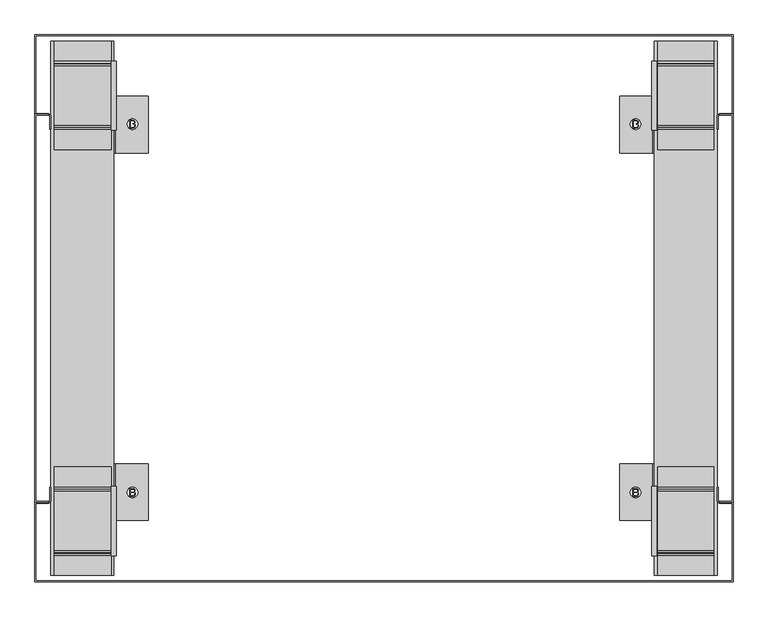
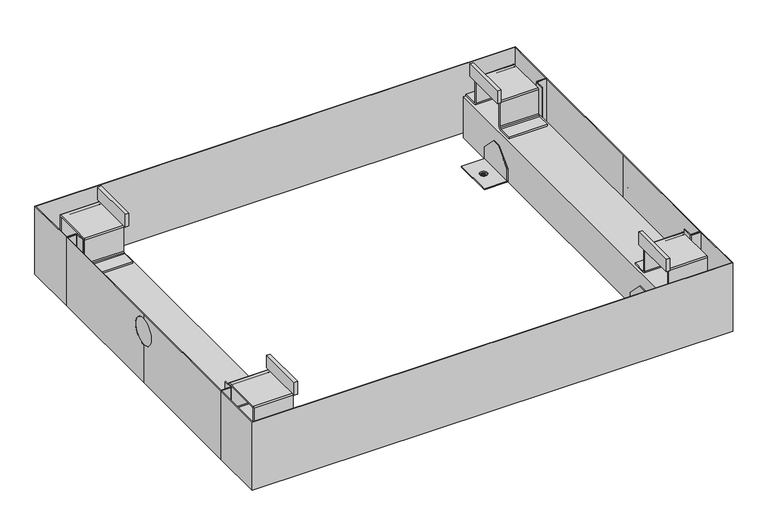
"""IFC4 building model written with IfcOpenShell, lengths in millimetres: proxy geometry, 11782990_EU_APWM024_IG : 59510024_EU_11782990_APWM024_IG."""

from ifc_helpers import new_model, si_unit, point, frame, frame_2d, origin, origin_with_axes, place, context, project, spatial, polyline, circle_curve, trimmed, segment, composite_curve, outline, extrude, source, transform, mapped, element, save
from ifc_brep_helpers import plane_surface, revolved_surface, advanced_brep


def specialty_equipment_4e6afd6e(model_context):
    return source(origin(), model_context, "Body", "SolidModel", [
        advanced_brep(
        [(-555.0, -126.5, 171.8001281), (-555.0, -435.0, 171.8001281), (-555.0, -743.5, 171.8001281), (-533.1000023, -743.5, 171.8001281), (-533.1000023, -742.0, 171.8001281), (-553.5, -742.0, 171.8001281), (-553.5, -435.0, 171.8001281), (-553.5, -128.0, 171.8001281), (-533.1000023, -128.0, 171.8001281), (-533.1000023, -126.5, 171.8001281), (-555.0, -126.5, 5.0069558), (-533.1000023, -126.5, 5.0069558), (-533.1000023, -128.0, 5.0069558), (-553.5, -128.0, 5.0069558), (-553.5, -435.0, 5.0069558), (-553.5, -742.0, 5.0069558), (-533.1000023, -742.0, 5.0069558), (-533.1000023, -743.5, 5.0069558), (-555.0, -743.5, 5.0069558), (-555.0, -435.0, 5.0069558), (-555.0, -435.0, 97.7016111), (-555.0, -402.9849473, 129.7166638), (-555.0, -435.0, 161.7317164), (-555.0, -467.0150527, 129.7166638), (-553.9619558, -467.0150527, 129.7166638), (-553.9619558, -402.9849473, 129.7166638)],
        [
            (0, 1),
            (1, 2),
            (2, 3),
            (3, 4),
            (4, 5),
            (5, 6),
            (6, 7),
            (7, 8),
            (8, 9),
            (9, 0),
            (10, 11),
            (11, 12),
            (12, 13),
            (13, 14),
            (14, 15),
            (15, 16),
            (16, 17),
            (17, 18),
            (18, 19),
            (19, 10),
            (0, 10),
            (19, 20),
            (20, 21, circle_curve(frame((-555.0, -435.0, 129.7166638), z_axis=(1.0, 0.0, 0.0), x_axis=(0.0, 1.0, 0.0)), 32.0150527)),
            (21, 22, circle_curve(frame((-555.0, -435.0, 129.7166638), z_axis=(1.0, 0.0, 0.0), x_axis=(0.0, 1.0, 0.0)), 32.0150527)),
            (22, 1),
            (22, 23, circle_curve(frame((-555.0, -435.0, 129.7166638), z_axis=(1.0, 0.0, 0.0), x_axis=(0.0, 1.0, 0.0)), 32.0150527)),
            (23, 20, circle_curve(frame((-555.0, -435.0, 129.7166638), z_axis=(1.0, 0.0, 0.0), x_axis=(0.0, 1.0, 0.0)), 32.0150527)),
            (18, 2),
            (17, 3),
            (16, 4),
            (15, 5),
            (14, 6),
            (13, 7),
            (12, 8),
            (11, 9),
            (24, 25, circle_curve(frame((-553.9619558, -435.0, 129.7166638), z_axis=(-1.0, 0.0, 0.0), x_axis=(0.0, 1.0, 0.0)), 32.0150527)),
            (25, 24, circle_curve(frame((-553.9619558, -435.0, 129.7166638), z_axis=(-1.0, 0.0, 0.0), x_axis=(0.0, 1.0, 0.0)), 32.0150527)),
            (25, 21),
            (23, 24),
        ],
        [
            plane_surface(frame((-555.0, -126.5, 171.8001281), z_axis=(0.0, 0.0, 1.0), x_axis=(0.0, -1.0, 0.0))),
            plane_surface(frame((-555.0, -126.5, 5.0069558), z_axis=(0.0, 0.0, -1.0), x_axis=(0.0, 1.0, 0.0))),
            plane_surface(frame((-555.0, -126.5, 171.8001281), z_axis=(-1.0, 0.0, 0.0), x_axis=(0.0, 0.0, -1.0))),
            plane_surface(frame((-555.0, -435.0, 171.8001281), z_axis=(-1.0, 0.0, 0.0), x_axis=(0.0, 0.0, -1.0))),
            plane_surface(frame((-555.0, -743.5, 171.8001281), z_axis=(0.0, -1.0, 0.0), x_axis=(0.0, 0.0, -1.0))),
            plane_surface(frame((-533.1000023, -743.5, 171.8001281), z_axis=(1.0, 0.0, 0.0), x_axis=(0.0, 0.0, -1.0))),
            plane_surface(frame((-533.1000023, -742.0, 171.8001281), z_axis=(0.0, 1.0, 0.0), x_axis=(0.0, 0.0, -1.0))),
            plane_surface(frame((-553.5, -742.0, 171.8001281), z_axis=(1.0, 0.0, 0.0), x_axis=(0.0, 0.0, -1.0))),
            plane_surface(frame((-553.5, -435.0, 171.8001281), z_axis=(1.0, 0.0, 0.0), x_axis=(0.0, 0.0, -1.0))),
            plane_surface(frame((-553.5, -128.0, 171.8001281), z_axis=(0.0, -1.0, 0.0), x_axis=(0.0, 0.0, -1.0))),
            plane_surface(frame((-533.1000023, -128.0, 171.8001281), z_axis=(1.0, 0.0, 0.0), x_axis=(0.0, 0.0, -1.0))),
            plane_surface(frame((-533.1000023, -126.5, 171.8001281), z_axis=(0.0, 1.0, 0.0), x_axis=(0.0, 0.0, -1.0))),
            plane_surface(frame((-553.9619558, -402.9849473, 129.7166638), z_axis=(-1.0, 0.0, 0.0), x_axis=(0.0, 0.0, 1.0))),
            revolved_surface(polyline([(-555.0, -402.9849473, 129.7166638), (-553.9619558, -402.9849473, 129.7166638)]), (-553.9619558, -435.0, 129.7166638), (-1.0, 0.0, 0.0)),
        ],
        [
            (0, [[1, 2, 3, 4, 5, 6, 7, 8, 9, 10]]),
            (1, [[11, 12, 13, 14, 15, 16, 17, 18, 19, 20]]),
            (2, [[-1, 21, -20, 22, 23, 24, 25]]),
            (3, [[-2, -25, 26, 27, -22, -19, 28]]),
            (4, [[-3, -28, -18, 29]]),
            (5, [[-4, -29, -17, 30]]),
            (6, [[-5, -30, -16, 31]]),
            (7, [[-6, -31, -15, 32]]),
            (8, [[-7, -32, -14, 33]]),
            (9, [[-8, -33, -13, 34]]),
            (10, [[-9, -34, -12, 35]]),
            (11, [[-10, -35, -11, -21]]),
            (12, [[36, 37]]),
            (13, [[-37, 38, -23, -27, 39]]),
            (13, [[-36, -39, -26, -24, -38]]),
        ],
    ),
        advanced_brep(
        [(555.0, -126.5, 171.8001281), (533.1000023, -126.5, 171.8001281), (533.1000023, -128.0, 171.8001281), (553.5, -128.0, 171.8001281), (553.5, -435.0, 171.8001281), (553.5, -742.0, 171.8001281), (533.1000023, -742.0, 171.8001281), (533.1000023, -743.5, 171.8001281), (555.0, -743.5, 171.8001281), (555.0, -435.0, 171.8001281), (555.0, -126.5, 5.0069558), (555.0, -435.0, 5.0069558), (555.0, -743.5, 5.0069558), (533.1000023, -743.5, 5.0069558), (533.1000023, -742.0, 5.0069558), (553.5, -742.0, 5.0069558), (553.5, -435.0, 5.0069558), (553.5, -128.0, 5.0069558), (533.1000023, -128.0, 5.0069558), (533.1000023, -126.5, 5.0069558), (555.0, -435.0, 161.7317164), (555.0, -402.9849473, 129.7166638), (555.0, -435.0, 97.7016111), (555.0, -467.0150527, 129.7166638), (553.9619558, -467.0150527, 129.7166638), (553.9619558, -402.9849473, 129.7166638)],
        [
            (0, 1),
            (1, 2),
            (2, 3),
            (3, 4),
            (4, 5),
            (5, 6),
            (6, 7),
            (7, 8),
            (8, 9),
            (9, 0),
            (10, 11),
            (11, 12),
            (12, 13),
            (13, 14),
            (14, 15),
            (15, 16),
            (16, 17),
            (17, 18),
            (18, 19),
            (19, 10),
            (9, 20),
            (20, 21, circle_curve(frame((555.0, -435.0, 129.7166638), z_axis=(-1.0, 0.0, 0.0), x_axis=(0.0, 1.0, 0.0)), 32.0150527)),
            (21, 22, circle_curve(frame((555.0, -435.0, 129.7166638), z_axis=(-1.0, 0.0, 0.0), x_axis=(0.0, 1.0, 0.0)), 32.0150527)),
            (22, 11),
            (10, 0),
            (8, 12),
            (22, 23, circle_curve(frame((555.0, -435.0, 129.7166638), z_axis=(-1.0, 0.0, 0.0), x_axis=(0.0, 1.0, 0.0)), 32.0150527)),
            (23, 20, circle_curve(frame((555.0, -435.0, 129.7166638), z_axis=(-1.0, 0.0, 0.0), x_axis=(0.0, 1.0, 0.0)), 32.0150527)),
            (7, 13),
            (6, 14),
            (5, 15),
            (4, 16),
            (3, 17),
            (2, 18),
            (1, 19),
            (24, 25, circle_curve(frame((553.9619558, -435.0, 129.7166638), z_axis=(1.0, 0.0, 0.0), x_axis=(0.0, 1.0, 0.0)), 32.0150527)),
            (25, 24, circle_curve(frame((553.9619558, -435.0, 129.7166638), z_axis=(1.0, 0.0, 0.0), x_axis=(0.0, 1.0, 0.0)), 32.0150527)),
            (24, 23),
            (21, 25),
        ],
        [
            plane_surface(frame((533.1000023, -126.5, 171.8001281), z_axis=(0.0, 0.0, 1.0), x_axis=(-1.0, 0.0, 0.0))),
            plane_surface(frame((533.1000023, -126.5, 5.0069558), z_axis=(0.0, 0.0, -1.0), x_axis=(1.0, 0.0, 0.0))),
            plane_surface(frame((555.0, -435.0, 171.8001281), z_axis=(1.0, 0.0, 0.0), x_axis=(0.0, 0.0, -1.0))),
            plane_surface(frame((555.0, -743.5, 171.8001281), z_axis=(1.0, 0.0, 0.0), x_axis=(0.0, 0.0, -1.0))),
            plane_surface(frame((533.1000023, -743.5, 171.8001281), z_axis=(0.0, -1.0, 0.0), x_axis=(0.0, 0.0, -1.0))),
            plane_surface(frame((533.1000023, -742.0, 171.8001281), z_axis=(-1.0, 0.0, 0.0), x_axis=(0.0, 0.0, -1.0))),
            plane_surface(frame((553.5, -742.0, 171.8001281), z_axis=(0.0, 1.0, 0.0), x_axis=(0.0, 0.0, -1.0))),
            plane_surface(frame((553.5, -435.0, 171.8001281), z_axis=(-1.0, 0.0, 0.0), x_axis=(0.0, 0.0, -1.0))),
            plane_surface(frame((553.5, -128.0, 171.8001281), z_axis=(-1.0, 0.0, 0.0), x_axis=(0.0, 0.0, -1.0))),
            plane_surface(frame((533.1000023, -128.0, 171.8001281), z_axis=(0.0, -1.0, 0.0), x_axis=(0.0, 0.0, -1.0))),
            plane_surface(frame((533.1000023, -126.5, 171.8001281), z_axis=(-1.0, 0.0, 0.0), x_axis=(0.0, 0.0, -1.0))),
            plane_surface(frame((555.0, -126.5, 171.8001281), z_axis=(0.0, 1.0, 0.0), x_axis=(0.0, 0.0, -1.0))),
            plane_surface(frame((553.9619558, -402.9849473, 129.7166638), z_axis=(1.0, 0.0, 0.0), x_axis=(0.0, 0.0, -1.0))),
            revolved_surface(polyline([(555.0, -402.9849473, 129.7166638), (553.9619558, -402.9849473, 129.7166638)]), (553.9619558, -435.0, 129.7166638), (1.0, 0.0, 0.0)),
        ],
        [
            (0, [[1, 2, 3, 4, 5, 6, 7, 8, 9, 10]]),
            (1, [[11, 12, 13, 14, 15, 16, 17, 18, 19, 20]]),
            (2, [[-10, 21, 22, 23, 24, -11, 25]]),
            (3, [[-9, 26, -12, -24, 27, 28, -21]]),
            (4, [[-8, 29, -13, -26]]),
            (5, [[-7, 30, -14, -29]]),
            (6, [[-6, 31, -15, -30]]),
            (7, [[-5, 32, -16, -31]]),
            (8, [[-4, 33, -17, -32]]),
            (9, [[-3, 34, -18, -33]]),
            (10, [[-2, 35, -19, -34]]),
            (11, [[-1, -25, -20, -35]]),
            (12, [[36, 37]]),
            (13, [[-36, 38, -27, -23, 39]]),
            (13, [[-37, -39, -22, -28, -38]]),
        ],
    ),
        extrude(outline(polyline([(395.7619994, -734.0547572), (395.7619994, -722.0), (400.3619959, -722.0), (402.6149052, -722.3546382), (403.9451665, -723.4450405), (404.4263562, -724.9872018), (404.021686, -726.3954541), (402.7988462, -727.4623119), (404.283618, -728.5865592), (404.8030673, -730.4612859), (404.4484291, -732.0814382), (403.5699269, -733.2351161), (402.2587955, -733.8472718), (400.3266792, -734.0547572), (395.7619994, -734.0547572)]), holes=[polyline([(397.2688441, -726.8972451), (400.0206014, -726.8972451), (401.6275099, -726.7677507), (402.5943038, -726.2100416), (402.9195115, -725.2285324), (402.6163767, -724.2455517), (401.7481752, -723.6642981), (399.8116444, -723.5068447), (397.2688441, -723.5068447), (397.2688441, -726.8972451)]), polyline([(397.2688441, -732.5479126), (400.3590528, -732.5479126), (401.4774141, -732.4890514), (402.4236066, -732.1609007), (403.0504775, -731.4913555), (403.2962227, -730.4760012), (403.0078032, -729.3046649), (402.0733829, -728.6056891), (400.2119, -728.4040898), (397.2688441, -728.4040898), (397.2688441, -732.5479126)])]), frame((0.0, 0.0, -1.0), z_axis=(0.0, 0.0, 1.0), x_axis=(1.0, 0.0, 0.0)), (0.0, 0.0, 1.0), 1.0),
        extrude(outline(polyline([(395.7619994, -148.0), (395.7619994, -135.9452428), (400.3619959, -135.9452428), (402.6149052, -136.299881), (403.9451665, -137.3902833), (404.4263562, -138.9324446), (404.021686, -140.3406969), (402.7988462, -141.4075546), (404.283618, -142.531802), (404.8030673, -144.4065287), (404.4484291, -146.026681), (403.5699269, -147.1803589), (402.2587955, -147.7925146), (400.3266792, -148.0), (395.7619994, -148.0)]), holes=[polyline([(397.2688441, -140.8424879), (400.0206014, -140.8424879), (401.6275099, -140.7129934), (402.5943038, -140.1552843), (402.9195115, -139.1737752), (402.6163767, -138.1907945), (401.7481752, -137.6095409), (399.8116444, -137.4520874), (397.2688441, -137.4520874), (397.2688441, -140.8424879)]), polyline([(397.2688441, -146.4931553), (400.3590528, -146.4931553), (401.4774141, -146.4342942), (402.4236066, -146.1061435), (403.0504775, -145.4365983), (403.2962227, -144.421244), (403.0078032, -143.2499077), (402.0733829, -142.5509319), (400.2119, -142.3493326), (397.2688441, -142.3493326), (397.2688441, -146.4931553)])]), frame((0.0, 0.0, -1.0), z_axis=(0.0, 0.0, 1.0), x_axis=(1.0, 0.0, 0.0)), (0.0, 0.0, 1.0), 1.0),
        extrude(outline(polyline([(-404.2380006, -734.0547572), (-404.2380006, -722.0), (-399.6380041, -722.0), (-397.3850948, -722.3546382), (-396.0548335, -723.4450405), (-395.5736438, -724.9872018), (-395.978314, -726.3954541), (-397.2011538, -727.4623119), (-395.716382, -728.5865592), (-395.1969327, -730.4612859), (-395.5515709, -732.0814382), (-396.4300731, -733.2351161), (-397.7412045, -733.8472718), (-399.6733208, -734.0547572), (-404.2380006, -734.0547572)]), holes=[polyline([(-402.7311559, -726.8972451), (-399.9793986, -726.8972451), (-398.3724901, -726.7677507), (-397.4056962, -726.2100416), (-397.0804885, -725.2285324), (-397.3836233, -724.2455517), (-398.2518248, -723.6642981), (-400.1883556, -723.5068447), (-402.7311559, -723.5068447), (-402.7311559, -726.8972451)]), polyline([(-402.7311559, -732.5479126), (-399.6409472, -732.5479126), (-398.5225859, -732.4890514), (-397.5763934, -732.1609007), (-396.9495225, -731.4913555), (-396.7037773, -730.4760012), (-396.9921968, -729.3046649), (-397.9266171, -728.6056891), (-399.7881, -728.4040898), (-402.7311559, -728.4040898), (-402.7311559, -732.5479126)])]), frame((0.0, 0.0, -1.0), z_axis=(0.0, 0.0, 1.0), x_axis=(1.0, 0.0, 0.0)), (0.0, 0.0, 1.0), 1.0),
        extrude(outline(polyline([(-404.2380006, -148.0), (-404.2380006, -135.9452428), (-399.6380041, -135.9452428), (-397.3850948, -136.299881), (-396.0548335, -137.3902833), (-395.5736438, -138.9324446), (-395.978314, -140.3406969), (-397.2011538, -141.4075546), (-395.716382, -142.531802), (-395.1969327, -144.4065287), (-395.5515709, -146.026681), (-396.4300731, -147.1803589), (-397.7412045, -147.7925146), (-399.6733208, -148.0), (-404.2380006, -148.0)]), holes=[polyline([(-402.7311559, -140.8424879), (-399.9793986, -140.8424879), (-398.3724901, -140.7129934), (-397.4056962, -140.1552843), (-397.0804885, -139.1737752), (-397.3836233, -138.1907945), (-398.2518248, -137.6095409), (-400.1883556, -137.4520874), (-402.7311559, -137.4520874), (-402.7311559, -140.8424879)]), polyline([(-402.7311559, -146.4931553), (-399.6409472, -146.4931553), (-398.5225859, -146.4342942), (-397.5763934, -146.1061435), (-396.9495225, -145.4365983), (-396.7037773, -144.421244), (-396.9921968, -143.2499077), (-397.9266171, -142.5509319), (-399.7881, -142.3493326), (-402.7311559, -142.3493326), (-402.7311559, -146.4931553)])]), frame((0.0, 0.0, -1.0), z_axis=(0.0, 0.0, 1.0), x_axis=(1.0, 0.0, 0.0)), (0.0, 0.0, 1.0), 1.0),
        extrude(outline(polyline([(430.0478439, -682.1946793), (430.0478439, -772.5500183), (375.0, -772.5500183), (375.0, -682.1946793), (430.0478439, -682.1946793)]), holes=[composite_curve([segment(trimmed(circle_curve(frame_2d((400.0, -728.0)), 8.4700909), [point((391.5299091, -728.0))], [point((408.4700909, -728.0))], True, "CARTESIAN"), True, "CONTINUOUS"), segment(trimmed(circle_curve(frame_2d((400.0, -728.0)), 8.4700909), [point((408.4700909, -728.0))], [point((391.5299091, -728.0))], True, "CARTESIAN"), True, "CONTINUOUS")], self_intersect=False)]), origin_with_axes(), (0.0, 0.0, 1.0), 2.452137),
        extrude(outline(polyline([(430.0478439, -187.8053207), (375.0, -187.8053207), (375.0, -97.4499817), (430.0478439, -97.4499817), (430.0478439, -187.8053207)]), holes=[composite_curve([segment(trimmed(circle_curve(frame_2d((400.0, -142.0)), 8.4700909), [point((408.4700909, -142.0))], [point((391.5299091, -142.0))], True, "CARTESIAN"), True, "CONTINUOUS"), segment(trimmed(circle_curve(frame_2d((400.0, -142.0)), 8.4700909), [point((391.5299091, -142.0))], [point((408.4700909, -142.0))], True, "CARTESIAN"), True, "CONTINUOUS")], self_intersect=False)]), origin_with_axes(), (0.0, 0.0, 1.0), 2.452137),
        extrude(outline(polyline([(434.0, -151.5), (426.0478439, -151.5), (426.0478439, -41.5), (434.0, -41.5), (434.0, -151.5)])), frame((0.0, 0.0, 169.8569783), z_axis=(0.0, 0.0, 1.0), x_axis=(1.0, 0.0, 0.0)), (0.0, 0.0, 1.0), 31.1430217),
        extrude(outline(polyline([(426.0478439, -718.5), (434.0, -718.5), (434.0, -828.5), (426.0478439, -828.5), (426.0478439, -718.5)])), frame((0.0, 0.0, 169.8569783), z_axis=(0.0, 0.0, 1.0), x_axis=(1.0, 0.0, 0.0)), (0.0, 0.0, 1.0), 31.1430217),
        extrude(outline(polyline([(-434.0, -718.5), (-426.0478439, -718.5), (-426.0478439, -828.5), (-434.0, -828.5), (-434.0, -718.5)])), frame((0.0, 0.0, 169.8569783), z_axis=(0.0, 0.0, 1.0), x_axis=(1.0, 0.0, 0.0)), (0.0, 0.0, 1.0), 31.1430217),
        extrude(outline(polyline([(-426.0478439, -151.5), (-434.0, -151.5), (-434.0, -41.5), (-426.0478439, -41.5), (-426.0478439, -151.5)])), frame((0.0, 0.0, 169.8569783), z_axis=(0.0, 0.0, 1.0), x_axis=(1.0, 0.0, 0.0)), (0.0, 0.0, 1.0), 31.1430217),
        extrude(outline(composite_curve([segment(polyline([(-827.5, 100.0), (-860.0, 100.0), (-860.0, 104.0), (-828.2053079, 104.0), (-824.5823269, 105.3186573), (-823.1075028, 108.4814277), (-823.1075028, 166.8569783)]), True, "CONTINUOUS"), segment(trimmed(circle_curve(frame_2d((-820.1075028, 166.8569783)), 3.0), [point((-823.1075028, 166.8569783))], [point((-820.1075028, 169.8569783))], False, "CARTESIAN"), True, "CONTINUOUS"), segment(polyline([(-820.1075028, 169.8569783), (-726.3723488, 169.8569783)]), True, "CONTINUOUS"), segment(trimmed(circle_curve(frame_2d((-726.3723488, 166.8569783)), 3.0), [point((-726.3723488, 169.8569783))], [point((-723.3723488, 166.8569783))], False, "CARTESIAN"), True, "CONTINUOUS"), segment(polyline([(-723.3723488, 166.8569783), (-723.3723488, 108.3971605), (-722.2811907, 105.3992283), (-719.2805359, 104.0), (-687.6000061, 104.0), (-687.6000061, 100.0), (-720.1673145, 100.0), (-725.4732837, 102.4742141), (-727.3723488, 107.6918526), (-727.3723488, 162.8569783)]), True, "CONTINUOUS"), segment(trimmed(circle_curve(frame_2d((-730.3723488, 162.8569783)), 3.0), [point((-727.3723488, 162.8569783))], [point((-730.3723488, 165.8569783))], True, "CARTESIAN"), True, "CONTINUOUS"), segment(polyline([(-730.3723488, 165.8569783), (-816.1075028, 165.8569783)]), True, "CONTINUOUS"), segment(trimmed(circle_curve(frame_2d((-816.1075028, 162.8569783)), 3.0), [point((-816.1075028, 165.8569783))], [point((-819.1075028, 162.8569783))], True, "CARTESIAN"), True, "CONTINUOUS"), segment(polyline([(-819.1075028, 162.8569783), (-819.1075028, 107.594649), (-821.6573126, 102.1265643), (-827.5, 100.0)]), True, "CONTINUOUS")], self_intersect=False)), frame((435.0, 0.0, 0.0), z_axis=(1.0, 0.0, 0.0), x_axis=(0.0, 1.0, 0.0)), (0.0, 0.0, 1.0), 89.0),
        extrude(outline(composite_curve([segment(polyline([(-42.5, 100.0), (-48.3426874, 102.1265643), (-50.8924972, 107.594649), (-50.8924972, 162.8569783)]), True, "CONTINUOUS"), segment(trimmed(circle_curve(frame_2d((-53.8924972, 162.8569783)), 3.0), [point((-50.8924972, 162.8569783))], [point((-53.8924972, 165.8569783))], True, "CARTESIAN"), True, "CONTINUOUS"), segment(polyline([(-53.8924972, 165.8569783), (-139.6276512, 165.8569783)]), True, "CONTINUOUS"), segment(trimmed(circle_curve(frame_2d((-139.6276512, 162.8569783)), 3.0), [point((-139.6276512, 165.8569783))], [point((-142.6276512, 162.8569783))], True, "CARTESIAN"), True, "CONTINUOUS"), segment(polyline([(-142.6276512, 162.8569783), (-142.6276512, 107.6918526), (-144.5267163, 102.4742141), (-149.8326855, 100.0), (-182.3999939, 100.0), (-182.3999939, 104.0), (-150.7194641, 104.0), (-147.7188093, 105.3992283), (-146.6276512, 108.3971605), (-146.6276512, 166.8569783)]), True, "CONTINUOUS"), segment(trimmed(circle_curve(frame_2d((-143.6276512, 166.8569783)), 3.0), [point((-146.6276512, 166.8569783))], [point((-143.6276512, 169.8569783))], False, "CARTESIAN"), True, "CONTINUOUS"), segment(polyline([(-143.6276512, 169.8569783), (-49.8924972, 169.8569783)]), True, "CONTINUOUS"), segment(trimmed(circle_curve(frame_2d((-49.8924972, 166.8569783)), 3.0), [point((-49.8924972, 169.8569783))], [point((-46.8924972, 166.8569783))], False, "CARTESIAN"), True, "CONTINUOUS"), segment(polyline([(-46.8924972, 166.8569783), (-46.8924972, 108.4814277), (-45.4176731, 105.3186573), (-41.7946921, 104.0), (-10.0, 104.0), (-10.0, 100.0), (-42.5, 100.0)]), True, "CONTINUOUS")], self_intersect=False)), frame((435.0, 0.0, 0.0), z_axis=(1.0, 0.0, 0.0), x_axis=(0.0, 1.0, 0.0)), (0.0, 0.0, 1.0), 89.0),
        extrude(outline(composite_curve([segment(polyline([(-42.5, 100.0), (-48.3426874, 102.1265643), (-50.8924972, 107.594649), (-50.8924972, 162.8569783)]), True, "CONTINUOUS"), segment(trimmed(circle_curve(frame_2d((-53.8924972, 162.8569783)), 3.0), [point((-50.8924972, 162.8569783))], [point((-53.8924972, 165.8569783))], True, "CARTESIAN"), True, "CONTINUOUS"), segment(polyline([(-53.8924972, 165.8569783), (-139.6276512, 165.8569783)]), True, "CONTINUOUS"), segment(trimmed(circle_curve(frame_2d((-139.6276512, 162.8569783)), 3.0), [point((-139.6276512, 165.8569783))], [point((-142.6276512, 162.8569783))], True, "CARTESIAN"), True, "CONTINUOUS"), segment(polyline([(-142.6276512, 162.8569783), (-142.6276512, 107.6918526), (-144.5267163, 102.4742141), (-149.8326855, 100.0), (-182.3999939, 100.0), (-182.3999939, 104.0), (-150.7194641, 104.0), (-147.7188093, 105.3992283), (-146.6276512, 108.3971605), (-146.6276512, 166.8569783)]), True, "CONTINUOUS"), segment(trimmed(circle_curve(frame_2d((-143.6276512, 166.8569783)), 3.0), [point((-146.6276512, 166.8569783))], [point((-143.6276512, 169.8569783))], False, "CARTESIAN"), True, "CONTINUOUS"), segment(polyline([(-143.6276512, 169.8569783), (-49.8924972, 169.8569783)]), True, "CONTINUOUS"), segment(trimmed(circle_curve(frame_2d((-49.8924972, 166.8569783)), 3.0), [point((-49.8924972, 169.8569783))], [point((-46.8924972, 166.8569783))], False, "CARTESIAN"), True, "CONTINUOUS"), segment(polyline([(-46.8924972, 166.8569783), (-46.8924972, 108.4814277), (-45.4176731, 105.3186573), (-41.7946921, 104.0), (-10.0, 104.0), (-10.0, 100.0), (-42.5, 100.0)]), True, "CONTINUOUS")], self_intersect=False)), frame((-524.0478439, 0.0, 0.0), z_axis=(1.0, 0.0, 0.0), x_axis=(0.0, 1.0, 0.0)), (0.0, 0.0, 1.0), 90.0478439),
        extrude(outline(composite_curve([segment(polyline([(-827.5, 100.0), (-860.0, 100.0), (-860.0, 104.0), (-828.2053079, 104.0), (-824.5823269, 105.3186573), (-823.1075028, 108.4814277), (-823.1075028, 166.8569783)]), True, "CONTINUOUS"), segment(trimmed(circle_curve(frame_2d((-820.1075028, 166.8569783)), 3.0), [point((-823.1075028, 166.8569783))], [point((-820.1075028, 169.8569783))], False, "CARTESIAN"), True, "CONTINUOUS"), segment(polyline([(-820.1075028, 169.8569783), (-726.3723488, 169.8569783)]), True, "CONTINUOUS"), segment(trimmed(circle_curve(frame_2d((-726.3723488, 166.8569783)), 3.0), [point((-726.3723488, 169.8569783))], [point((-723.3723488, 166.8569783))], False, "CARTESIAN"), True, "CONTINUOUS"), segment(polyline([(-723.3723488, 166.8569783), (-723.3723488, 108.3971605), (-722.2811907, 105.3992283), (-719.2805359, 104.0), (-687.6000061, 104.0), (-687.6000061, 100.0), (-720.1673145, 100.0), (-725.4732837, 102.4742141), (-727.3723488, 107.6918526), (-727.3723488, 162.8569783)]), True, "CONTINUOUS"), segment(trimmed(circle_curve(frame_2d((-730.3723488, 162.8569783)), 3.0), [point((-727.3723488, 162.8569783))], [point((-730.3723488, 165.8569783))], True, "CARTESIAN"), True, "CONTINUOUS"), segment(polyline([(-730.3723488, 165.8569783), (-816.1075028, 165.8569783)]), True, "CONTINUOUS"), segment(trimmed(circle_curve(frame_2d((-816.1075028, 162.8569783)), 3.0), [point((-816.1075028, 165.8569783))], [point((-819.1075028, 162.8569783))], True, "CARTESIAN"), True, "CONTINUOUS"), segment(polyline([(-819.1075028, 162.8569783), (-819.1075028, 107.594649), (-821.6573126, 102.1265643), (-827.5, 100.0)]), True, "CONTINUOUS")], self_intersect=False)), frame((-524.0478439, 0.0, 0.0), z_axis=(1.0, 0.0, 0.0), x_axis=(0.0, 1.0, 0.0)), (0.0, 0.0, 1.0), 90.0478439),
        extrude(outline(polyline([(-430.0478439, -187.8053207), (-430.0478439, -97.4499817), (-375.0, -97.4499817), (-375.0, -187.8053207), (-430.0478439, -187.8053207)]), holes=[composite_curve([segment(trimmed(circle_curve(frame_2d((-400.0, -142.0)), 8.4700909), [point((-391.5299091, -142.0))], [point((-408.4700909, -142.0))], True, "CARTESIAN"), True, "CONTINUOUS"), segment(trimmed(circle_curve(frame_2d((-400.0, -142.0)), 8.4700909), [point((-408.4700909, -142.0))], [point((-391.5299091, -142.0))], True, "CARTESIAN"), True, "CONTINUOUS")], self_intersect=False)]), origin_with_axes(), (0.0, 0.0, 1.0), 2.452137),
        extrude(outline(polyline([(-430.0478439, -682.1946793), (-375.0, -682.1946793), (-375.0, -772.5500183), (-430.0478439, -772.5500183), (-430.0478439, -682.1946793)]), holes=[composite_curve([segment(trimmed(circle_curve(frame_2d((-400.0, -728.0)), 8.4700909), [point((-408.4700909, -728.0))], [point((-391.5299091, -728.0))], True, "CARTESIAN"), True, "CONTINUOUS"), segment(trimmed(circle_curve(frame_2d((-400.0, -728.0)), 8.4700909), [point((-391.5299091, -728.0))], [point((-408.4700909, -728.0))], True, "CARTESIAN"), True, "CONTINUOUS")], self_intersect=False)]), origin_with_axes(), (0.0, 0.0, 1.0), 2.452137),
        extrude(outline(polyline([(-772.5500183, 31.9500008), (-737.5500183, 66.9500008), (-717.5500183, 66.9500008), (-682.1946793, 31.5946617), (-682.1946793, 0.0), (-772.5500183, 0.0), (-772.5500183, 31.9500008)])), frame((427.5478439, 0.0, 0.0), z_axis=(1.0, 0.0, 0.0), x_axis=(0.0, 1.0, 0.0)), (0.0, 0.0, 1.0), 2.5),
        extrude(outline(polyline([(-97.4499817, 31.9500008), (-97.4499817, 0.0), (-187.8053207, 0.0), (-187.8053207, 31.5946617), (-152.4499817, 66.9500008), (-132.4499817, 66.9500008), (-97.4499817, 31.9500008)])), frame((427.5478439, 0.0, 0.0), z_axis=(1.0, 0.0, 0.0), x_axis=(0.0, 1.0, 0.0)), (0.0, 0.0, 1.0), 2.5),
        extrude(outline(polyline([(-97.4499817, 31.9500008), (-97.4499817, 0.0), (-187.8053207, 0.0), (-187.8053207, 31.5946617), (-152.4499817, 66.9500008), (-132.4499817, 66.9500008), (-97.4499817, 31.9500008)])), frame((-430.0478439, 0.0, 0.0), z_axis=(1.0, 0.0, 0.0), x_axis=(0.0, 1.0, 0.0)), (0.0, 0.0, 1.0), 2.5),
        extrude(outline(polyline([(-772.5500183, 31.9500008), (-737.5500183, 66.9500008), (-717.5500183, 66.9500008), (-682.1946793, 31.5946617), (-682.1946793, 0.0), (-772.5500183, 0.0), (-772.5500183, 31.9500008)])), frame((-430.0478439, 0.0, 0.0), z_axis=(1.0, 0.0, 0.0), x_axis=(0.0, 1.0, 0.0)), (0.0, 0.0, 1.0), 2.5),
        extrude(outline(polyline([(430.0478439, -10.0), (530.0478439, -10.0), (530.0478439, -860.0), (430.0478439, -860.0), (430.0478439, -10.0)])), origin_with_axes(), (0.0, 0.0, 1.0), 100.0),
        extrude(outline(polyline([(-430.0478439, -10.0), (-430.0478439, -860.0), (-530.0478439, -860.0), (-530.0478439, -10.0), (-430.0478439, -10.0)])), origin_with_axes(), (0.0, 0.0, 1.0), 100.0),
        extrude(outline(polyline([(555.0, 0.0), (555.0, -126.5), (533.0952676, -126.5), (531.5956955, -128.0999756), (531.5956955, -150.0), (530.0956955, -150.0), (530.0956955, -128.0999756), (533.1956711, -125.0), (553.5, -125.0), (553.5, -1.5), (-553.5, -1.5), (-553.5, -125.0), (-533.1956711, -125.0), (-530.0956955, -128.0999756), (-530.0956955, -150.0), (-531.5956955, -150.0), (-531.5956955, -128.0999756), (-533.0952676, -126.5), (-555.0, -126.5), (-555.0, 0.0), (555.0, 0.0)])), frame((0.0, 0.0, 5.0069558), z_axis=(0.0, 0.0, 1.0), x_axis=(1.0, 0.0, 0.0)), (0.0, 0.0, 1.0), 166.7931723),
        extrude(outline(polyline([(555.0, -870.0), (-555.0, -870.0), (-555.0, -743.5), (-533.0952676, -743.5), (-531.5956955, -741.9000244), (-531.5956955, -720.0), (-530.0956955, -720.0), (-530.0956955, -741.9000244), (-533.1956711, -745.0), (-553.5, -745.0), (-553.5, -868.5), (553.5, -868.5), (553.5, -745.0), (533.1956711, -745.0), (530.0956955, -741.9000244), (530.0956955, -720.0), (531.5956955, -720.0), (531.5956955, -741.9000244), (533.0952676, -743.5), (555.0, -743.5), (555.0, -870.0)])), frame((0.0, 0.0, 5.0069558), z_axis=(0.0, 0.0, 1.0), x_axis=(1.0, 0.0, 0.0)), (0.0, 0.0, 1.0), 166.7931723),
    ])


if __name__ == "__main__":
    model = new_model("IFC4")
    model_context = context("Model", 3, world=origin())
    ifc_project = project(units=[si_unit("LENGTHUNIT", "METRE", prefix="MILLI")], contexts=[model_context])
    site = spatial("IfcSite", under=ifc_project)
    building = spatial("IfcBuilding", under=site)
    placement = place(None, origin())
    specialty_equipment_shape = specialty_equipment_4e6afd6e(model_context)
    element("IfcBuildingElementProxy", 1, Name="11782990_EU_APWM024_IG : 59510024_EU_11782990_APWM024_IG", ObjectType="11782990_EU_APWM024_IG : 59510024_EU_11782990_APWM024_IG", at=placement, inside=building, context=model_context, shape_type="MappedRepresentation", body=[
        mapped(specialty_equipment_shape, transform((0.0, 0.0, 0.0), x_axis=(1.0, 0.0, 0.0), y_axis=(0.0, 1.0, 0.0), z_axis=(0.0, 0.0, 1.0))),
    ])
    save(model, "model.ifc")
